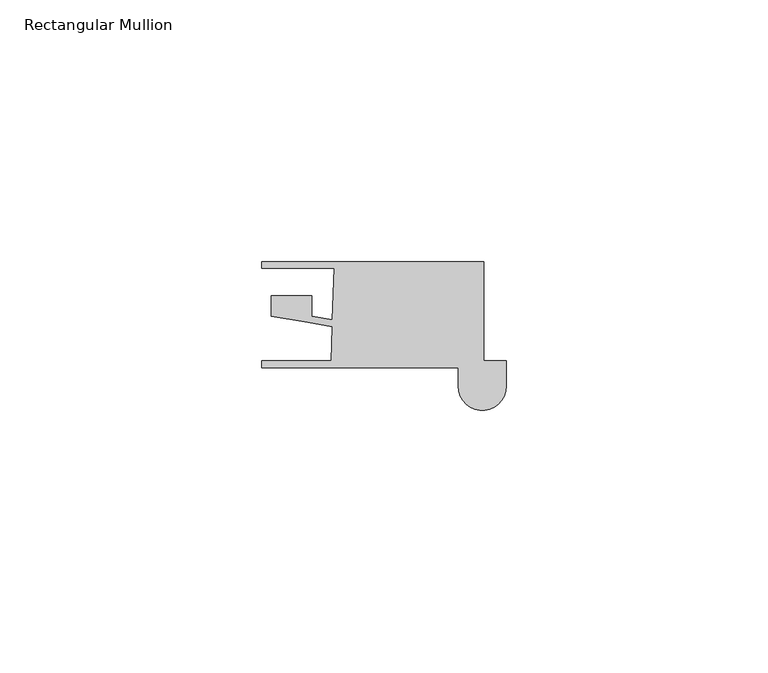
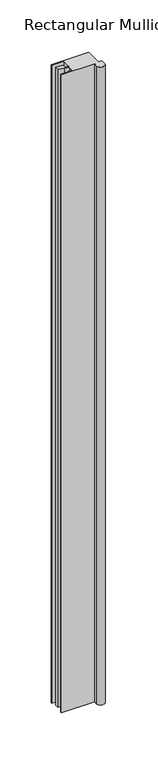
"""IFC4 building model written with IfcOpenShell, lengths in millimetres: member geometry, Rectangular Mullion : QuickPanel-Absolute_Multi-Angle-Outside-Corner-Trim-Left."""

from ifc_helpers import new_model, si_unit, point, frame, frame_2d, origin, place, context, project, spatial, polyline, circle_curve, trimmed, segment, composite_curve, outline, extrude, source, transform, mapped, element, save


def rectangular_mullion_5f43d4da(model_context):
    return source(origin(), model_context, "Body", "SweptSolid", [
        extrude(outline(composite_curve([segment(polyline([(-46.7093657, -8.095605), (-46.7093657, -6.6935423), (-33.468453, -6.6935423), (-33.2416678, -0.1992641), (-38.4919487, 0.7008023), (-44.9272813, 1.8040245), (-44.9272813, 5.6493034), (-37.1825082, 5.6493034), (-37.1825082, 1.7648465), (-33.1969393, 1.0815922), (-32.8530122, 10.9303752), (-46.7093657, 10.9303752), (-46.7093657, 12.1803727), (-4.2600515, 12.1803727), (-4.2600515, -6.6995181), (0.0, -6.6995181), (0.0, -11.6334034)]), True, "CONTINUOUS"), segment(trimmed(circle_curve(frame_2d((-4.572, -11.6334034)), 4.572), [point((0.0, -11.6334034))], [point((-9.144, -11.6334034))], False, "CARTESIAN"), True, "CONTINUOUS"), segment(polyline([(-9.144, -11.6334034), (-9.144, -8.095605), (-46.7093657, -8.095605)]), True, "CONTINUOUS")], self_intersect=False)), frame((0.0, 0.0, -763.4314025), z_axis=(0.0, 0.0, 1.0), x_axis=(1.0, 0.0, 0.0)), (0.0, 0.0, 1.0), 763.4314025),
    ])


if __name__ == "__main__":
    model = new_model("IFC4")
    model_context = context("Model", 3, world=origin())
    ifc_project = project(units=[si_unit("LENGTHUNIT", "METRE", prefix="MILLI")], contexts=[model_context])
    site = spatial("IfcSite", under=ifc_project)
    building = spatial("IfcBuilding", under=site)
    placement = place(None, origin())
    rectangular_mullion_shape = rectangular_mullion_5f43d4da(model_context)
    element("IfcMember", 1, ObjectType="Rectangular Mullion : QuickPanel-Absolute_Multi-Angle-Outside-Corner-Trim-Left", at=placement, inside=building, context=model_context, shape_type="MappedRepresentation", body=[
        mapped(rectangular_mullion_shape, transform((0.0, 0.0, 0.0), x_axis=(1.0, 0.0, 0.0), y_axis=(0.0, 1.0, 0.0), z_axis=(0.0, 0.0, 1.0))),
    ])
    save(model, "model.ifc")
